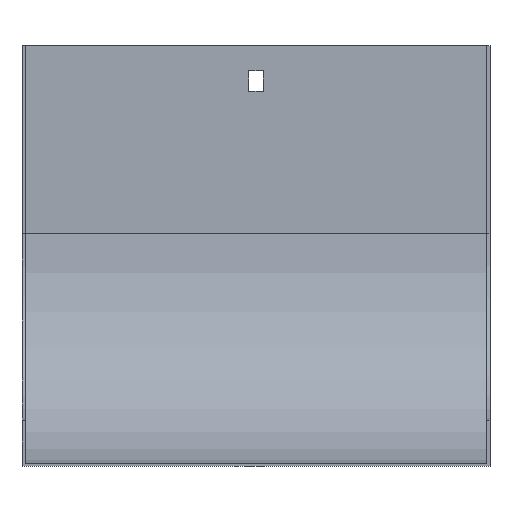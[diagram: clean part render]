
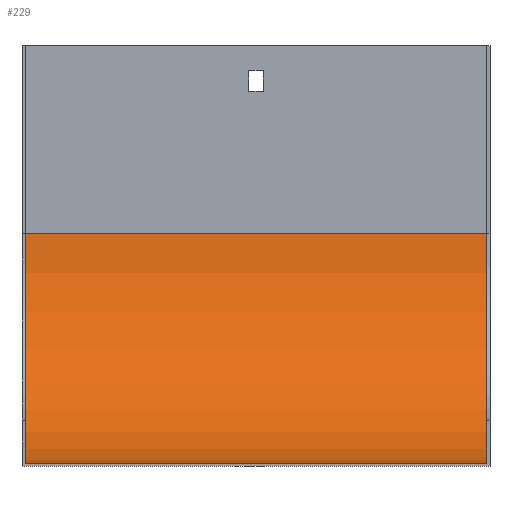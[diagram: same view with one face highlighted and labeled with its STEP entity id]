
A CAD part, front view. The second image highlights one B-rep face of the part: STEP entity #229.
In plain terms, the highlighted cylindrical face has radius 100 mm (diameter 200 mm), a partial arc.
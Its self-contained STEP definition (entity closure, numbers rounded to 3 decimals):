
#7 = CYLINDRICAL_SURFACE ( 'NONE', #732, 100. ) ;
#9 = VECTOR ( 'NONE', #322, 1000. ) ;
#20 = CARTESIAN_POINT ( 'NONE',  ( 100.5, -101.5, -182. ) ) ;
#36 = EDGE_LOOP ( 'NONE', ( #718, #146, #771, #448 ) ) ;
#118 = DIRECTION ( 'NONE',  ( 0., 0., 1. ) ) ;
#145 = DIRECTION ( 'NONE',  ( 1., 0., 0. ) ) ;
#146 = ORIENTED_EDGE ( 'NONE', *, *, #564, .F. ) ;
#152 = CIRCLE ( 'NONE', #353, 100. ) ;
#163 = DIRECTION ( 'NONE',  ( 0., 0., 1. ) ) ;
#181 = CARTESIAN_POINT ( 'NONE',  ( -100.5, -101.5, -182. ) ) ;
#200 = VERTEX_POINT ( 'NONE', #202 ) ;
#202 = CARTESIAN_POINT ( 'NONE',  ( -100.5, -1.5, -82. ) ) ;
#229 = ADVANCED_FACE ( 'NONE', ( #518 ), #7, .F. ) ;
#262 = EDGE_CURVE ( 'NONE', #415, #200, #359, .T. ) ;
#279 = DIRECTION ( 'NONE',  ( -1., 0., 0. ) ) ;
#322 = DIRECTION ( 'NONE',  ( -1., 0., 0. ) ) ;
#353 = AXIS2_PLACEMENT_3D ( 'NONE', #751, #629, #747 ) ;
#359 = LINE ( 'NONE', #849, #9 ) ;
#369 = LINE ( 'NONE', #645, #439 ) ;
#383 = VERTEX_POINT ( 'NONE', #20 ) ;
#386 = EDGE_CURVE ( 'NONE', #383, #415, #614, .T. ) ;
#415 = VERTEX_POINT ( 'NONE', #686 ) ;
#431 = VERTEX_POINT ( 'NONE', #181 ) ;
#439 = VECTOR ( 'NONE', #847, 1000. ) ;
#448 = ORIENTED_EDGE ( 'NONE', *, *, #262, .T. ) ;
#518 = FACE_OUTER_BOUND ( 'NONE', #36, .T. ) ;
#564 = EDGE_CURVE ( 'NONE', #383, #431, #369, .T. ) ;
#614 = CIRCLE ( 'NONE', #723, 100. ) ;
#629 = DIRECTION ( 'NONE',  ( 1., 0., 0. ) ) ;
#630 = CARTESIAN_POINT ( 'NONE',  ( 100.5, -101.5, -82. ) ) ;
#645 = CARTESIAN_POINT ( 'NONE',  ( 102., -101.5, -182. ) ) ;
#686 = CARTESIAN_POINT ( 'NONE',  ( 100.5, -1.5, -82. ) ) ;
#718 = ORIENTED_EDGE ( 'NONE', *, *, #788, .F. ) ;
#723 = AXIS2_PLACEMENT_3D ( 'NONE', #630, #145, #163 ) ;
#732 = AXIS2_PLACEMENT_3D ( 'NONE', #806, #279, #118 ) ;
#747 = DIRECTION ( 'NONE',  ( 0., 0., 1. ) ) ;
#751 = CARTESIAN_POINT ( 'NONE',  ( -100.5, -101.5, -82. ) ) ;
#771 = ORIENTED_EDGE ( 'NONE', *, *, #386, .T. ) ;
#788 = EDGE_CURVE ( 'NONE', #431, #200, #152, .T. ) ;
#806 = CARTESIAN_POINT ( 'NONE',  ( 102., -101.5, -82. ) ) ;
#847 = DIRECTION ( 'NONE',  ( -1., 0., 0. ) ) ;
#849 = CARTESIAN_POINT ( 'NONE',  ( 102., -1.5, -82. ) ) ;
